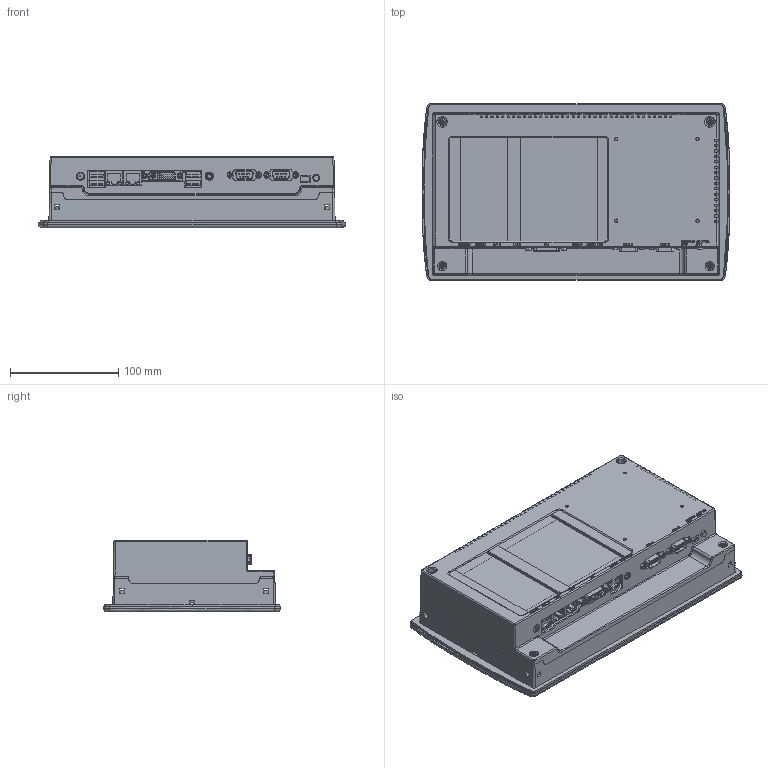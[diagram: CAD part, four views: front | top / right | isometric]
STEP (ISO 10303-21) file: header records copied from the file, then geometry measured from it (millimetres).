
FILE_DESCRIPTION (( 'STEP AP214' ), '1' );
FILE_NAME ('CPCV5-101BR_ASM.STEP', '2017-06-27T08:54:59', ( 'luke' ), ( '' ), 'SwSTEP 2.0', 'SolidWorks 2016', '' );
FILE_SCHEMA (( 'AUTOMOTIVE_DESIGN' ));
Length unit declared in the file: millimetre
Products named in the file (1): CPCV5-101BR_ASM
Bounding box: 283.88 x 163 x 66.2 mm (x, y, z)
Surface area: 460302.2 mm2 (no closed solid volume)
Topology: 0 solids, 118 shells, 4221 faces, 13025 edges, 8887 vertices
Faces by surface type: plane 2947, cylinder 717, bspline 350, torus 94, cone 89, sphere 24
Entity records: 205462 total; most frequent: CARTESIAN_POINT 47382, ORIENTED_EDGE 23168, DIRECTION 20754, EDGE_CURVE 13001, LINE 9826, VECTOR 9826, VERTEX_POINT 8876, AXIS2_PLACEMENT_3D 5464
